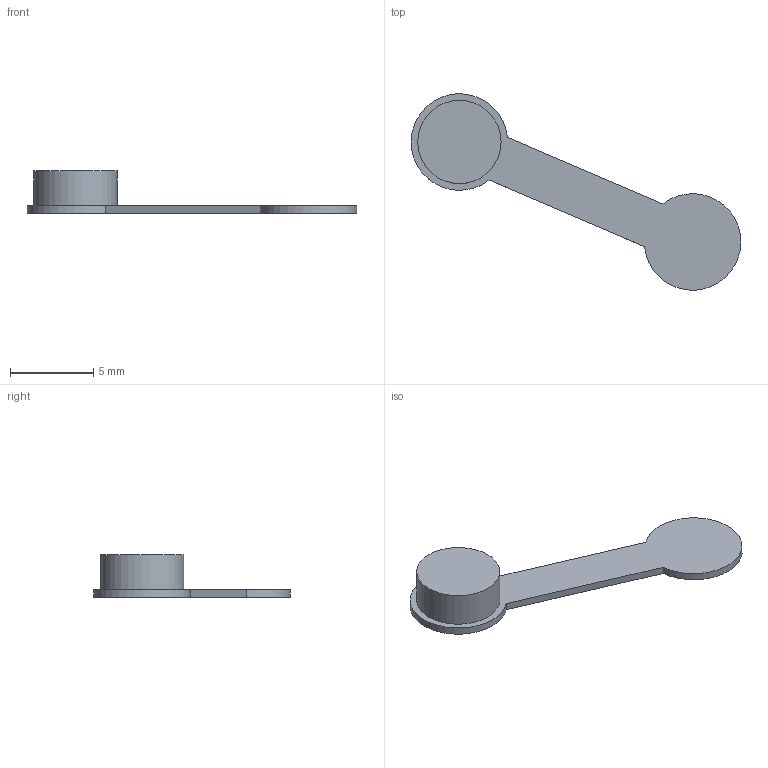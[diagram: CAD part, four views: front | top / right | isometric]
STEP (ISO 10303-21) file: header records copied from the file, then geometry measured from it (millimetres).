
FILE_DESCRIPTION(('Open CASCADE Model'),'2;1');
FILE_NAME('Open CASCADE Shape Model','2026-09-09T12:58:10',('Author'),( 'Open CASCADE'),'Open CASCADE STEP processor 7.9','Open CASCADE 7.9' ,'Unknown');
FILE_SCHEMA(('AUTOMOTIVE_DESIGN { 1 0 10303 214 1 1 1 1 }'));
Length unit declared in the file: millimetre
Products named in the file (1): Open CASCADE STEP translator 7.9 20
Bounding box: 19.8 x 11.79 x 2.55 mm (x, y, z)
Volume: 77.2 mm3; surface area: 215.7 mm2
Topology: 1 solids, 1 shells, 8 faces, 15 edges, 10 vertices
Faces by surface type: plane 5, cylinder 3
Full cylindrical faces by diameter (mm): 5 x1
Entity records: 414 total; most frequent: CARTESIAN_POINT 96, DIRECTION 57, ORIENTED_EDGE 30, PCURVE 30, DEFINITIONAL_REPRESENTATION 30, LINE 25, VECTOR 25, AXIS2_PLACEMENT_3D 15
